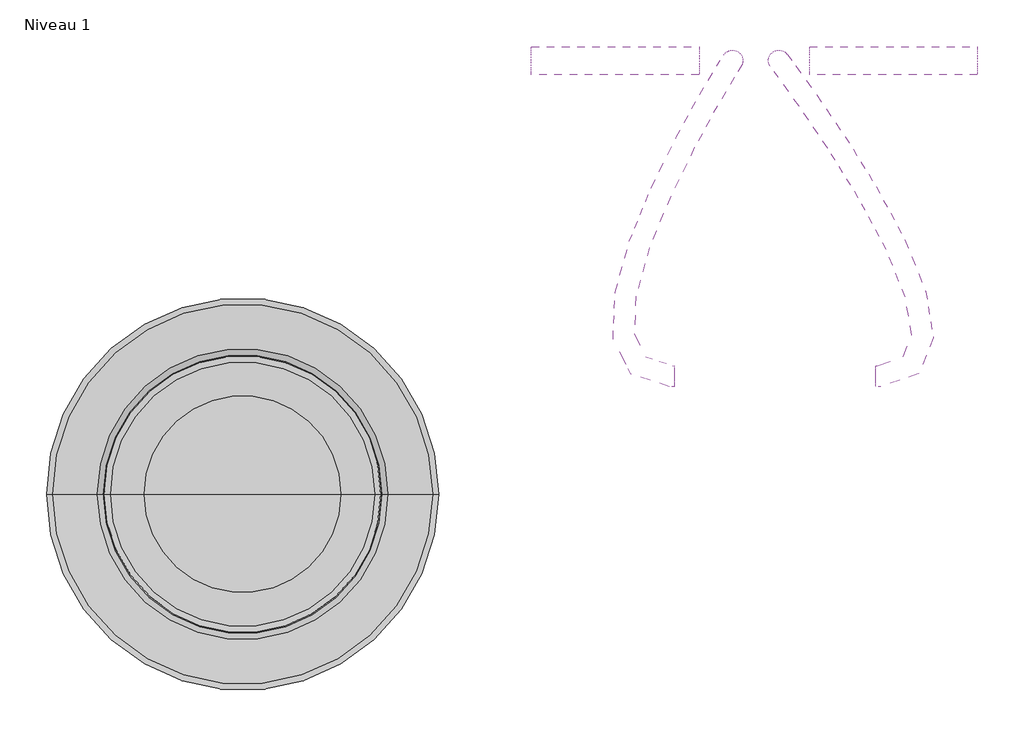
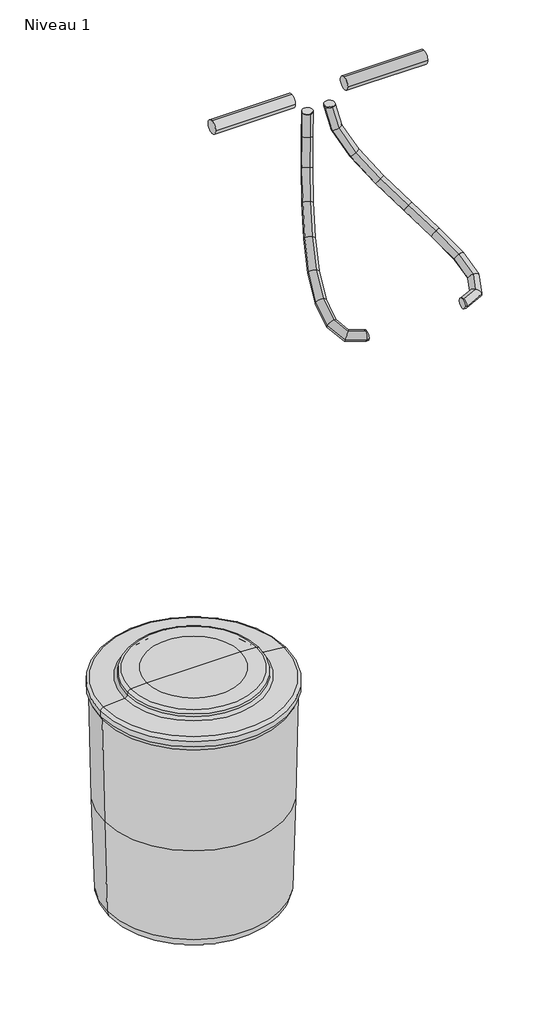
# One storey, incomplete: 4 pipe segments, 1 proxy.
"""IFC4 building model written with IfcOpenShell, lengths in millimetres."""

from ifc_helpers import new_model, si_unit, point, frame, frame_2d, origin, place, context, project, spatial, circle_curve, ellipse_curve, trimmed, segment, composite_curve, outline, extrude, transform, mapped, element, save
from ifc_brep_helpers import plane_surface, cylinder_surface, advanced_brep
from components import proxy_600x470_mm_3bed51a3

model = new_model("IFC4")

# Units and contexts
model_context = context("Model", 3, world=origin())
ifc_project = project(units=[si_unit("LENGTHUNIT", "METRE", prefix="MILLI")], contexts=[model_context])

# Site, building, storey
site = spatial("IfcSite", under=ifc_project)
building = spatial("IfcBuilding", under=site)
storey = spatial("IfcBuildingStorey", under=building, Name="Niveau 1", Elevation=0.0)

# Proxy
placement = place(None, origin())
proxy_600x470_mm_shape = proxy_600x470_mm_3bed51a3(model_context)
element("IfcBuildingElementProxy", 1, Name="BWT_Bac à sel type 1 : 600x470 mm", ObjectType="BWT_Bac à sel type 1 : 600x470 mm", at=placement, inside=storey, context=model_context, shape_type="MappedRepresentation", body=[
    mapped(proxy_600x470_mm_shape, transform((-2038.2618794, -1088.3928891, 0.0), x_axis=(1.0, 0.0, 0.0), y_axis=(0.0, 1.0, 0.0), z_axis=(0.0, 0.0, 1.0))),
])

# Pipe segments
element("IfcPipeSegment", 2, ObjectType="Souple - Circulaire", at=placement, inside=storey, context=model_context, shape_type="AdvancedBrep", body=[
    advanced_brep(
    [(-1410.8991799, -571.1251876, 1557.88203), (-1398.3991799, -583.6251876, 1557.88203), (-1385.8991799, -571.1251876, 1557.88203), (-1398.3991799, -558.6251876, 1557.88203), (-1410.8991799, -571.1251876, 1553.4096709), (-1398.3991799, -583.6251876, 1555.9627684), (-1385.8991799, -571.1251876, 1555.6002354), (-1398.3991799, -558.6251876, 1553.0471379), (-1282.5181347, -935.2835362, 1217.4101487), (-1282.5181347, -945.806693, 1203.2058124), (-1282.5181347, -960.0110293, 1213.7289693), (-1282.5181347, -949.4878725, 1227.9333056), (-1400.7839362, -584.588527, 1496.9173839), (-1389.2706701, -595.775189, 1504.9812587), (-1376.6119769, -583.4864089, 1503.732445), (-1388.125243, -572.2997469, 1495.6685703), (-1375.1225306, -620.1539461, 1439.5668995), (-1365.3624972, -628.9107156, 1451.549061), (-1352.3366356, -617.1308125, 1449.4796655), (-1362.096669, -608.3740429, 1437.497504), (-1340.7269979, -670.7879016, 1386.2979735), (-1332.0913584, -677.8894413, 1400.0215023), (-1318.667011, -666.6961526, 1397.3349652), (-1327.3026505, -659.5946128, 1383.6114364), (-1303.7642244, -730.2953708, 1337.9351191), (-1295.7234398, -736.439236, 1352.4369683), (-1281.8421064, -725.9816626, 1349.1525013), (-1289.882891, -719.8377974, 1334.6506522), (-1270.4016121, -792.4377596, 1295.6760349), (-1262.57739, -798.1782477, 1310.4521951), (-1248.1004095, -788.8301477, 1306.4132459), (-1255.9246316, -783.0896595, 1291.6370857), (-1246.8721966, -850.6513687, 1260.9944084), (-1238.9295701, -856.6847984, 1275.5960443), (-1223.6147747, -849.4095179, 1270.3221819), (-1231.5574011, -843.3760881, 1255.720546), (-1239.1779297, -897.3199337, 1235.9048151), (-1230.9218829, -905.2543735, 1249.4844447), (-1214.7891396, -902.9402484, 1241.5434043), (-1223.0451864, -895.0058086, 1227.9637747), (-1250.0556926, -924.815069, 1222.284188), (-1243.6224287, -937.3568588, 1233.5814139), (-1231.2925128, -944.6549358, 1220.8786505), (-1237.7257768, -932.113146, 1209.5814245), (-1280.9664581, -935.2835362, 1217.4101487), (-1279.4422783, -949.4878725, 1227.9333056), (-1276.6352168, -960.0110293, 1213.7289693), (-1278.1593966, -945.806693, 1203.2058124)],
    [
        (0, 1, circle_curve(frame((-1398.3991799, -571.1251876, 1557.88203), z_axis=(0.0, 0.0, 1.0), x_axis=(-1.0, 0.0, 0.0)), 12.5)),
        (1, 2, circle_curve(frame((-1398.3991799, -571.1251876, 1557.88203), z_axis=(0.0, 0.0, 1.0), x_axis=(-1.0, 0.0, 0.0)), 12.5)),
        (2, 3, circle_curve(frame((-1398.3991799, -571.1251876, 1557.88203), z_axis=(0.0, 0.0, 1.0), x_axis=(-1.0, 0.0, 0.0)), 12.5)),
        (3, 0, circle_curve(frame((-1398.3991799, -571.1251876, 1557.88203), z_axis=(0.0, 0.0, 1.0), x_axis=(-1.0, 0.0, 0.0)), 12.5)),
        (0, 4),
        (4, 5, ellipse_curve(frame((-1398.3991799, -571.1251876, 1554.5049531), z_axis=(-0.08670493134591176, 0.11540383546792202, 0.9895272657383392), x_axis=(0.5943832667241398, -0.7911211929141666, 0.14434607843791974)), 12.6322947, 12.5)),
        (5, 1),
        (5, 6, ellipse_curve(frame((-1398.3991799, -571.1251876, 1554.5049531), z_axis=(-0.08670493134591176, 0.11540383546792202, 0.9895272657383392), x_axis=(0.5943832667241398, -0.7911211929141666, 0.14434607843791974)), 12.6322947, 12.5)),
        (6, 2),
        (6, 7, ellipse_curve(frame((-1398.3991799, -571.1251876, 1554.5049531), z_axis=(-0.08670493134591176, 0.11540383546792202, 0.9895272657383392), x_axis=(0.5943832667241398, -0.7911211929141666, 0.14434607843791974)), 12.6322947, 12.5)),
        (7, 3),
        (7, 4, ellipse_curve(frame((-1398.3991799, -571.1251876, 1554.5049531), z_axis=(-0.08670493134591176, 0.11540383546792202, 0.9895272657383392), x_axis=(0.5943832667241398, -0.7911211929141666, 0.14434607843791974)), 12.6322947, 12.5)),
        (8, 9, circle_curve(frame((-1282.5181347, -947.6472828, 1215.569559), z_axis=(-1.0, 0.0, 0.0), x_axis=(0.0, 0.9890997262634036, 0.14724717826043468)), 12.5)),
        (9, 10, circle_curve(frame((-1282.5181347, -947.6472828, 1215.569559), z_axis=(-1.0, 0.0, 0.0), x_axis=(0.0, 0.9890997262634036, 0.14724717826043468)), 12.5)),
        (10, 11, circle_curve(frame((-1282.5181347, -947.6472828, 1215.569559), z_axis=(-1.0, 0.0, 0.0), x_axis=(0.0, 0.9890997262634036, 0.14724717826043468)), 12.5)),
        (11, 8, circle_curve(frame((-1282.5181347, -947.6472828, 1215.569559), z_axis=(-1.0, 0.0, 0.0), x_axis=(0.0, 0.9890997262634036, 0.14724717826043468)), 12.5)),
        (4, 12),
        (12, 13, ellipse_curve(frame((-1388.6979565, -584.0374679, 1500.3249145), z_axis=(-0.267920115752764, 0.3665300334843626, 0.8909963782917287), x_axis=(0.5089060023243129, -0.7314220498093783, 0.4539123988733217)), 12.7090312, 12.5)),
        (13, 5),
        (13, 14, ellipse_curve(frame((-1388.6979565, -584.0374679, 1500.3249145), z_axis=(-0.267920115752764, 0.3665300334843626, 0.8909963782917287), x_axis=(0.5089060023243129, -0.7314220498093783, 0.4539123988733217)), 12.7090312, 12.5)),
        (14, 6),
        (14, 15, ellipse_curve(frame((-1388.6979565, -584.0374679, 1500.3249145), z_axis=(-0.267920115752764, 0.3665300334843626, 0.8909963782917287), x_axis=(0.5089060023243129, -0.7314220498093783, 0.4539123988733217)), 12.7090312, 12.5)),
        (15, 7),
        (15, 12, ellipse_curve(frame((-1388.6979565, -584.0374679, 1500.3249145), z_axis=(-0.267920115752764, 0.3665300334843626, 0.8909963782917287), x_axis=(0.5089060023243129, -0.7314220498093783, 0.4539123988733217)), 12.7090312, 12.5)),
        (12, 16),
        (16, 17, ellipse_curve(frame((-1363.7295831, -618.6423793, 1444.5232825), z_axis=(-0.39166711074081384, 0.561185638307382, 0.7291553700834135), x_axis=(0.33820295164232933, -0.6491862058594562, 0.6813046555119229)), 12.5644945, 12.5)),
        (17, 13),
        (17, 18, ellipse_curve(frame((-1363.7295831, -618.6423793, 1444.5232825), z_axis=(-0.39166711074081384, 0.561185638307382, 0.7291553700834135), x_axis=(0.33820295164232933, -0.6491862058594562, 0.6813046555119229)), 12.5644945, 12.5)),
        (18, 14),
        (18, 19, ellipse_curve(frame((-1363.7295831, -618.6423793, 1444.5232825), z_axis=(-0.39166711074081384, 0.561185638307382, 0.7291553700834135), x_axis=(0.33820295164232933, -0.6491862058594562, 0.6813046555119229)), 12.5644945, 12.5)),
        (19, 15),
        (19, 16, ellipse_curve(frame((-1363.7295831, -618.6423793, 1444.5232825), z_axis=(-0.39166711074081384, 0.561185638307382, 0.7291553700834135), x_axis=(0.33820295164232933, -0.6491862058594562, 0.6813046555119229)), 12.5644945, 12.5)),
        (16, 20),
        (20, 21, ellipse_curve(frame((-1329.6970044, -668.7420271, 1391.8164693), z_axis=(-0.4297757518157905, 0.662649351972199, 0.6133421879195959), x_axis=(0.08880641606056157, -0.6449611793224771, 0.759037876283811)), 12.5212156, 12.5)),
        (21, 17),
        (21, 22, ellipse_curve(frame((-1329.6970044, -668.7420271, 1391.8164693), z_axis=(-0.4297757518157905, 0.662649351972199, 0.6133421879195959), x_axis=(0.08880641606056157, -0.6449611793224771, 0.759037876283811)), 12.5212156, 12.5)),
        (22, 18),
        (22, 23, ellipse_curve(frame((-1329.6970044, -668.7420271, 1391.8164693), z_axis=(-0.4297757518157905, 0.662649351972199, 0.6133421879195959), x_axis=(0.08880641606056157, -0.6449611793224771, 0.759037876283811)), 12.5212156, 12.5)),
        (23, 19),
        (23, 20, ellipse_curve(frame((-1329.6970044, -668.7420271, 1391.8164693), z_axis=(-0.4297757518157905, 0.662649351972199, 0.6133421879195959), x_axis=(0.08880641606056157, -0.6449611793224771, 0.759037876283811)), 12.5212156, 12.5)),
        (20, 24),
        (24, 25, ellipse_curve(frame((-1292.8031654, -728.1385167, 1343.5438102), z_axis=(-0.42035312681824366, 0.7280525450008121, 0.5415189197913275), x_axis=(-0.3410222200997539, -0.6798167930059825, 0.6492711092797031)), 12.5108934, 12.5)),
        (25, 21),
        (25, 26, ellipse_curve(frame((-1292.8031654, -728.1385167, 1343.5438102), z_axis=(-0.42035312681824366, 0.7280525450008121, 0.5415189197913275), x_axis=(-0.3410222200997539, -0.6798167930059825, 0.6492711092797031)), 12.5108934, 12.5)),
        (26, 22),
        (26, 27, ellipse_curve(frame((-1292.8031654, -728.1385167, 1343.5438102), z_axis=(-0.42035312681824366, 0.7280525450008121, 0.5415189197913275), x_axis=(-0.3410222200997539, -0.6798167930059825, 0.6492711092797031)), 12.5108934, 12.5)),
        (27, 23),
        (27, 24, ellipse_curve(frame((-1292.8031654, -728.1385167, 1343.5438102), z_axis=(-0.42035312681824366, 0.7280525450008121, 0.5415189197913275), x_axis=(-0.3410222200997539, -0.6798167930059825, 0.6492711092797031)), 12.5108934, 12.5)),
        (24, 28),
        (28, 29, ellipse_curve(frame((-1259.2510108, -790.6339536, 1301.0446404), z_axis=(-0.36735532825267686, 0.7846599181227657, 0.49935846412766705), x_axis=(-0.7741894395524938, -0.5555167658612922, 0.3033674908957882)), 12.5157824, 12.5)),
        (29, 25),
        (29, 30, ellipse_curve(frame((-1259.2510108, -790.6339536, 1301.0446404), z_axis=(-0.36735532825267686, 0.7846599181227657, 0.49935846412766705), x_axis=(-0.7741894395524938, -0.5555167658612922, 0.3033674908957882)), 12.5157824, 12.5)),
        (30, 26),
        (30, 31, ellipse_curve(frame((-1259.2510108, -790.6339536, 1301.0446404), z_axis=(-0.36735532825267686, 0.7846599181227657, 0.49935846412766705), x_axis=(-0.7741894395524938, -0.5555167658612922, 0.3033674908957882)), 12.5157824, 12.5)),
        (31, 27),
        (31, 28, ellipse_curve(frame((-1259.2510108, -790.6339536, 1301.0446404), z_axis=(-0.36735532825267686, 0.7846599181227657, 0.49935846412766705), x_axis=(-0.7741894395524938, -0.5555167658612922, 0.3033674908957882)), 12.5157824, 12.5)),
        (28, 32),
        (32, 33, ellipse_curve(frame((-1235.2434856, -850.0304433, 1265.6582952), z_axis=(-0.2369889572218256, 0.8456055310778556, 0.47831738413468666), x_axis=(-0.9479698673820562, -0.3090070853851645, 0.07660125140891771)), 12.5594914, 12.5)),
        (33, 29),
        (33, 34, ellipse_curve(frame((-1235.2434856, -850.0304433, 1265.6582952), z_axis=(-0.2369889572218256, 0.8456055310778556, 0.47831738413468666), x_axis=(-0.9479698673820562, -0.3090070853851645, 0.07660125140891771)), 12.5594914, 12.5)),
        (34, 30),
        (34, 35, ellipse_curve(frame((-1235.2434856, -850.0304433, 1265.6582952), z_axis=(-0.2369889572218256, 0.8456055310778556, 0.47831738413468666), x_axis=(-0.9479698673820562, -0.3090070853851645, 0.07660125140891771)), 12.5594914, 12.5)),
        (35, 31),
        (35, 32, ellipse_curve(frame((-1235.2434856, -850.0304433, 1265.6582952), z_axis=(-0.2369889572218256, 0.8456055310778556, 0.47831738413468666), x_axis=(-0.9479698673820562, -0.3090070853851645, 0.07660125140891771)), 12.5594914, 12.5)),
        (32, 36),
        (36, 37, ellipse_curve(frame((-1226.9835346, -900.1300911, 1238.7241097), z_axis=(0.09809549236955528, 0.8840818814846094, 0.4569206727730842), x_axis=(-0.9929489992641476, 0.05624384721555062, 0.1043499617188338)), 12.8783673, 12.5)),
        (37, 33),
        (37, 38, ellipse_curve(frame((-1226.9835346, -900.1300911, 1238.7241097), z_axis=(0.09809549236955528, 0.8840818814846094, 0.4569206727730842), x_axis=(-0.9929489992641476, 0.05624384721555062, 0.1043499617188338)), 12.8783673, 12.5)),
        (38, 34),
        (38, 39, ellipse_curve(frame((-1226.9835346, -900.1300911, 1238.7241097), z_axis=(0.09809549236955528, 0.8840818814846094, 0.4569206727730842), x_axis=(-0.9929489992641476, 0.05624384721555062, 0.1043499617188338)), 12.8783673, 12.5)),
        (39, 35),
        (39, 36, ellipse_curve(frame((-1226.9835346, -900.1300911, 1238.7241097), z_axis=(0.09809549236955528, 0.8840818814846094, 0.4569206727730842), x_axis=(-0.9929489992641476, 0.05624384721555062, 0.1043499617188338)), 12.8783673, 12.5)),
        (36, 40),
        (40, 41, ellipse_curve(frame((-1240.6741027, -934.7350024, 1221.5814192), z_axis=(0.7011505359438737, 0.6409743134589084, 0.31231371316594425), x_axis=(-0.7129371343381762, 0.6238418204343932, 0.3202218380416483)), 13.7923827, 12.5)),
        (41, 37),
        (41, 42, ellipse_curve(frame((-1240.6741027, -934.7350024, 1221.5814192), z_axis=(0.7011505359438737, 0.6409743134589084, 0.31231371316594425), x_axis=(-0.7129371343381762, 0.6238418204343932, 0.3202218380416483)), 13.7923827, 12.5)),
        (42, 38),
        (42, 43, ellipse_curve(frame((-1240.6741027, -934.7350024, 1221.5814192), z_axis=(0.7011505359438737, 0.6409743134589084, 0.31231371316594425), x_axis=(-0.7129371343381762, 0.6238418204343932, 0.3202218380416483)), 13.7923827, 12.5)),
        (43, 39),
        (43, 40, ellipse_curve(frame((-1240.6741027, -934.7350024, 1221.5814192), z_axis=(0.7011505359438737, 0.6409743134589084, 0.31231371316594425), x_axis=(-0.7129371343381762, 0.6238418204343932, 0.3202218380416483)), 13.7923827, 12.5)),
        (40, 44),
        (44, 45, ellipse_curve(frame((-1278.8008375, -947.6472828, 1215.569559), z_axis=(0.9840648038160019, 0.16119488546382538, 0.07505112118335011), x_axis=(-0.17781018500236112, 0.892109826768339, 0.4153595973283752)), 12.7024155, 12.5)),
        (45, 41),
        (45, 46, ellipse_curve(frame((-1278.8008375, -947.6472828, 1215.569559), z_axis=(0.9840648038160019, 0.16119488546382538, 0.07505112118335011), x_axis=(-0.17781018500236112, 0.892109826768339, 0.4153595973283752)), 12.7024155, 12.5)),
        (46, 42),
        (46, 47, ellipse_curve(frame((-1278.8008375, -947.6472828, 1215.569559), z_axis=(0.9840648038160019, 0.16119488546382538, 0.07505112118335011), x_axis=(-0.17781018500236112, 0.892109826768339, 0.4153595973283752)), 12.7024155, 12.5)),
        (47, 43),
        (47, 44, ellipse_curve(frame((-1278.8008375, -947.6472828, 1215.569559), z_axis=(0.9840648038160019, 0.16119488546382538, 0.07505112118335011), x_axis=(-0.17781018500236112, 0.892109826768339, 0.4153595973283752)), 12.7024155, 12.5)),
        (44, 8),
        (11, 45),
        (10, 46),
        (9, 47),
    ],
    [
        plane_surface(frame((-1398.3991799, -583.6251876, 1557.88203), z_axis=(0.0, 0.0, 1.0), x_axis=(-1.0, 0.0, 0.0))),
        cylinder_surface(frame((-1398.3991799, -571.1251876, 1557.88203), z_axis=(0.0, 0.0, 1.0), x_axis=(-1.0, 0.0, 0.0)), 12.5),
        plane_surface(frame((-1282.5181347, -947.6472828, 1203.069559), z_axis=(-1.0, 0.0, 0.0), x_axis=(0.0, -1.0, 0.0))),
        cylinder_surface(frame((-1398.3991799, -571.1251876, 1554.5049531), z_axis=(-0.1715937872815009, 0.22839048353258, 0.958328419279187), x_axis=(-0.9849645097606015, -0.02001216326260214, -0.1715937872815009)), 12.5),
        cylinder_surface(frame((-1388.6979565, -584.0374679, 1500.3249145), z_axis=(-0.3554332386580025, 0.4926126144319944, 0.7943551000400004), x_axis=(-0.9294153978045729, -0.0960065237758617, -0.3563281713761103)), 12.5),
        cylinder_surface(frame((-1363.7295831, -618.6423793, 1444.5232825), z_axis=(-0.4238800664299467, 0.6239974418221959, 0.6564700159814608), x_axis=(-0.8899938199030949, -0.15249026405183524, -0.42971818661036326)), 12.5),
        cylinder_surface(frame((-1329.6970044, -668.7420271, 1391.8164693), z_axis=(-0.4342150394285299, 0.6990557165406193, 0.5681359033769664), x_axis=(-0.874619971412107, -0.1761944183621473, -0.45165853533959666)), 12.5),
        cylinder_surface(frame((-1292.8031654, -728.1385167, 1343.5438102), z_axis=(-0.40575919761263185, 0.7557815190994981, 0.5139589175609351), x_axis=(-0.8790010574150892, -0.16860636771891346, -0.4460146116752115)), 12.5),
        cylinder_surface(frame((-1259.2510108, -790.6339536, 1301.0446404), z_axis=(-0.32802499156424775, 0.8115594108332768, 0.4834986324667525), x_axis=(-0.9025956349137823, -0.11820906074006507, -0.41394170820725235)), 12.5),
        cylinder_surface(frame((-1235.2434856, -850.0304433, 1265.6582952), z_axis=(-0.14370779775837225, 0.8716407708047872, 0.4686047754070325), x_axis=(-0.9424327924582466, 0.02393478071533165, -0.33353794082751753)), 12.5),
        cylinder_surface(frame((-1226.9835346, -900.1300911, 1238.7241097), z_axis=(0.334134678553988, 0.8445742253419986, 0.4183878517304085), x_axis=(-0.8985471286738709, 0.4194526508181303, -0.12912215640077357)), 12.5),
        cylinder_surface(frame((-1240.6741027, -934.7350024, 1221.5814192), z_axis=(0.936767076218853, 0.3172524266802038, 0.1477103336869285), x_axis=(-0.33554421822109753, 0.9341358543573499, 0.12165641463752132)), 12.5),
        cylinder_surface(frame((-1278.8008375, -947.6472828, 1215.569559), z_axis=(1.0000000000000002, 0.0, 0.0), x_axis=(0.0, 0.9890997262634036, 0.14724717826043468)), 12.5),
    ],
    [
        (0, [[1, 2, 3, 4]]),
        (1, [[-1, 5, 6, 7]]),
        (1, [[-2, -7, 8, 9]]),
        (1, [[-3, -9, 10, 11]]),
        (1, [[-4, -11, 12, -5]]),
        (2, [[13, 14, 15, 16]]),
        (3, [[-6, 17, 18, 19]]),
        (3, [[-8, -19, 20, 21]]),
        (3, [[-10, -21, 22, 23]]),
        (3, [[-12, -23, 24, -17]]),
        (4, [[-18, 25, 26, 27]]),
        (4, [[-20, -27, 28, 29]]),
        (4, [[-22, -29, 30, 31]]),
        (4, [[-24, -31, 32, -25]]),
        (5, [[-26, 33, 34, 35]]),
        (5, [[-28, -35, 36, 37]]),
        (5, [[-30, -37, 38, 39]]),
        (5, [[-32, -39, 40, -33]]),
        (6, [[-34, 41, 42, 43]]),
        (6, [[-36, -43, 44, 45]]),
        (6, [[-38, -45, 46, 47]]),
        (6, [[-40, -47, 48, -41]]),
        (7, [[-42, 49, 50, 51]]),
        (7, [[-44, -51, 52, 53]]),
        (7, [[-46, -53, 54, 55]]),
        (7, [[-48, -55, 56, -49]]),
        (8, [[-50, 57, 58, 59]]),
        (8, [[-52, -59, 60, 61]]),
        (8, [[-54, -61, 62, 63]]),
        (8, [[-56, -63, 64, -57]]),
        (9, [[-58, 65, 66, 67]]),
        (9, [[-60, -67, 68, 69]]),
        (9, [[-62, -69, 70, 71]]),
        (9, [[-64, -71, 72, -65]]),
        (10, [[-66, 73, 74, 75]]),
        (10, [[-68, -75, 76, 77]]),
        (10, [[-70, -77, 78, 79]]),
        (10, [[-72, -79, 80, -73]]),
        (11, [[-74, 81, 82, 83]]),
        (11, [[-76, -83, 84, 85]]),
        (11, [[-78, -85, 86, 87]]),
        (11, [[-80, -87, 88, -81]]),
        (12, [[-82, 89, -16, 90]]),
        (12, [[-84, -90, -15, 91]]),
        (12, [[-86, -91, -14, 92]]),
        (12, [[-88, -92, -13, -89]]),
    ],
),
])
element("IfcPipeSegment", 3, ObjectType="Souple - Circulaire", at=placement, inside=storey, context=model_context, shape_type="AdvancedBrep", body=[
    advanced_brep(
    [(-1466.3871841, -571.1251876, 1557.9427811), (-1453.8871841, -583.6251876, 1557.9427811), (-1441.3871841, -571.1251876, 1557.9427811), (-1453.8871841, -558.6251876, 1557.9427811), (-1466.3871841, -571.1251876, 1555.6301516), (-1453.8871841, -583.6251876, 1556.1896708), (-1441.3871841, -571.1251876, 1553.7963565), (-1453.8871841, -558.6251876, 1553.2368373), (-1523.3571367, -959.8587246, 1212.8992241), (-1523.3571367, -944.9769478, 1203.3581172), (-1523.3571367, -935.4358409, 1218.239894), (-1523.3571367, -950.3176177, 1227.7810008), (-1474.1156378, -583.5697826, 1503.9678013), (-1461.41626, -595.7487384, 1505.8600998), (-1449.69653, -584.5051533, 1498.250919), (-1462.3959078, -572.3261975, 1496.3586205), (-1494.1090472, -617.3589786, 1449.8525678), (-1480.9727462, -628.7995268, 1452.9274662), (-1470.6552735, -619.9257799, 1441.5228607), (-1483.7915745, -608.4852318, 1438.4479623), (-1521.4376154, -667.0337416, 1397.6971764), (-1507.870948, -677.6920187, 1401.5934105), (-1498.4513424, -670.4503126, 1388.4752644), (-1512.0180098, -659.7920355, 1384.5790303), (-1550.7100066, -726.4196114, 1349.3328605), (-1536.6999036, -736.1782759, 1353.9617461), (-1527.7342031, -729.8574221, 1340.0936507), (-1541.7443061, -720.0987575, 1335.4647651), (-1576.5253185, -789.3865642, 1306.2743663), (-1561.9980669, -797.8838351, 1311.7658268), (-1553.162889, -791.8813431, 1297.680027), (-1567.6901406, -783.3840722, 1292.1885665), (-1593.4934043, -850.116795, 1269.7821581), (-1578.3510945, -856.4127199, 1276.596386), (-1569.3856776, -849.9440915, 1262.7906831), (-1584.5279874, -843.6481666, 1255.9764552), (-1595.8432298, -903.6784849, 1240.662872), (-1580.4916627, -905.2046196, 1250.0702386), (-1571.431734, -896.5816972, 1237.4357367), (-1586.7833011, -895.0555625, 1228.0283701), (-1575.0136816, -944.7020804, 1220.0649798), (-1563.8538083, -937.9727142, 1233.6174223), (-1557.1203024, -924.7679244, 1223.2834698), (-1568.2801757, -931.4972906, 1209.7310274), (-1529.1624884, -959.8587246, 1212.8992241), (-1526.5085657, -950.3176177, 1227.7810008), (-1524.8482047, -935.4358409, 1218.239894), (-1527.5021274, -944.9769478, 1203.3581172)],
    [
        (0, 1, circle_curve(frame((-1453.8871841, -571.1251876, 1557.9427811), z_axis=(0.0, 0.0, 1.0), x_axis=(-1.0, 0.0, 0.0)), 12.5)),
        (1, 2, circle_curve(frame((-1453.8871841, -571.1251876, 1557.9427811), z_axis=(0.0, 0.0, 1.0), x_axis=(-1.0, 0.0, 0.0)), 12.5)),
        (2, 3, circle_curve(frame((-1453.8871841, -571.1251876, 1557.9427811), z_axis=(0.0, 0.0, 1.0), x_axis=(-1.0, 0.0, 0.0)), 12.5)),
        (3, 0, circle_curve(frame((-1453.8871841, -571.1251876, 1557.9427811), z_axis=(0.0, 0.0, 1.0), x_axis=(-1.0, 0.0, 0.0)), 12.5)),
        (0, 4),
        (4, 5, ellipse_curve(frame((-1453.8871841, -571.1251876, 1554.713254), z_axis=(0.07265292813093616, 0.1169879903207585, 0.9904722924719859), x_axis=(-0.5225443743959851, -0.8414171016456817, 0.13771215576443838)), 12.620242, 12.5)),
        (5, 1),
        (5, 6, ellipse_curve(frame((-1453.8871841, -571.1251876, 1554.713254), z_axis=(0.07265292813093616, 0.1169879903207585, 0.9904722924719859), x_axis=(-0.5225443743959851, -0.8414171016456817, 0.13771215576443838)), 12.620242, 12.5)),
        (6, 2),
        (6, 7, ellipse_curve(frame((-1453.8871841, -571.1251876, 1554.713254), z_axis=(0.07265292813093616, 0.1169879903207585, 0.9904722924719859), x_axis=(-0.5225443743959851, -0.8414171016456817, 0.13771215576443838)), 12.620242, 12.5)),
        (7, 3),
        (7, 4, ellipse_curve(frame((-1453.8871841, -571.1251876, 1554.713254), z_axis=(0.07265292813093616, 0.1169879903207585, 0.9904722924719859), x_axis=(-0.5225443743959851, -0.8414171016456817, 0.13771215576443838)), 12.620242, 12.5)),
        (8, 9, circle_curve(frame((-1523.3571367, -947.6472828, 1215.569559), z_axis=(1.0, 0.0, 0.0), x_axis=(0.0, -0.976915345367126, -0.21362679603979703)), 12.5)),
        (9, 10, circle_curve(frame((-1523.3571367, -947.6472828, 1215.569559), z_axis=(1.0, 0.0, 0.0), x_axis=(0.0, -0.976915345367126, -0.21362679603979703)), 12.5)),
        (10, 11, circle_curve(frame((-1523.3571367, -947.6472828, 1215.569559), z_axis=(1.0, 0.0, 0.0), x_axis=(0.0, -0.976915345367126, -0.21362679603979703)), 12.5)),
        (11, 8, circle_curve(frame((-1523.3571367, -947.6472828, 1215.569559), z_axis=(1.0, 0.0, 0.0), x_axis=(0.0, -0.976915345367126, -0.21362679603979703)), 12.5)),
        (4, 12),
        (12, 13, ellipse_curve(frame((-1461.9060839, -584.0374679, 1501.1093601), z_axis=(0.22494777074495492, 0.3743342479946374, 0.8995956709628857), x_axis=(-0.4436658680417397, -0.7826445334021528, 0.43660981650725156)), 12.6955083, 12.5)),
        (13, 5),
        (13, 14, ellipse_curve(frame((-1461.9060839, -584.0374679, 1501.1093601), z_axis=(0.22494777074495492, 0.3743342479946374, 0.8995956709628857), x_axis=(-0.4436658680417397, -0.7826445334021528, 0.43660981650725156)), 12.6955083, 12.5)),
        (14, 6),
        (14, 15, ellipse_curve(frame((-1461.9060839, -584.0374679, 1501.1093601), z_axis=(0.22494777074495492, 0.3743342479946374, 0.8995956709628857), x_axis=(-0.4436658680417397, -0.7826445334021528, 0.43660981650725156)), 12.6955083, 12.5)),
        (15, 7),
        (15, 12, ellipse_curve(frame((-1461.9060839, -584.0374679, 1501.1093601), z_axis=(0.22494777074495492, 0.3743342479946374, 0.8995956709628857), x_axis=(-0.4436658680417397, -0.7826445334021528, 0.43660981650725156)), 12.6955083, 12.5)),
        (12, 16),
        (16, 17, ellipse_curve(frame((-1482.3821604, -618.6423793, 1445.6877142), z_axis=(0.32854691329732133, 0.5780093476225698, 0.7469686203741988), x_axis=(-0.2782674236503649, -0.6965296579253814, 0.6613725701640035)), 12.5630848, 12.5)),
        (17, 13),
        (17, 18, ellipse_curve(frame((-1482.3821604, -618.6423793, 1445.6877142), z_axis=(0.32854691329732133, 0.5780093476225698, 0.7469686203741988), x_axis=(-0.2782674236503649, -0.6965296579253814, 0.6613725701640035)), 12.5630848, 12.5)),
        (18, 14),
        (18, 19, ellipse_curve(frame((-1482.3821604, -618.6423793, 1445.6877142), z_axis=(0.32854691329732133, 0.5780093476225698, 0.7469686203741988), x_axis=(-0.2782674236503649, -0.6965296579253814, 0.6613725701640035)), 12.5630848, 12.5)),
        (19, 15),
        (19, 16, ellipse_curve(frame((-1482.3821604, -618.6423793, 1445.6877142), z_axis=(0.32854691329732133, 0.5780093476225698, 0.7469686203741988), x_axis=(-0.2782674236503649, -0.6965296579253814, 0.6613725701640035)), 12.5630848, 12.5)),
        (16, 20),
        (20, 21, ellipse_curve(frame((-1509.9444789, -668.7420271, 1393.0862204), z_axis=(0.35650287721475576, 0.6857496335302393, 0.6345495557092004), x_axis=(-0.019221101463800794, -0.6736483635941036, 0.7388020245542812)), 12.5218012, 12.5)),
        (21, 17),
        (21, 22, ellipse_curve(frame((-1509.9444789, -668.7420271, 1393.0862204), z_axis=(0.35650287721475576, 0.6857496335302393, 0.6345495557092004), x_axis=(-0.019221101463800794, -0.6736483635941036, 0.7388020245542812)), 12.5218012, 12.5)),
        (22, 18),
        (22, 23, ellipse_curve(frame((-1509.9444789, -668.7420271, 1393.0862204), z_axis=(0.35650287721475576, 0.6857496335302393, 0.6345495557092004), x_axis=(-0.019221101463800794, -0.6736483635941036, 0.7388020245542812)), 12.5218012, 12.5)),
        (23, 19),
        (23, 20, ellipse_curve(frame((-1509.9444789, -668.7420271, 1393.0862204), z_axis=(0.35650287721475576, 0.6857496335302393, 0.6345495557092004), x_axis=(-0.019221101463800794, -0.6736483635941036, 0.7388020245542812)), 12.5218012, 12.5)),
        (20, 24),
        (24, 25, ellipse_curve(frame((-1539.2221049, -728.1385167, 1344.7132556), z_axis=(0.33911529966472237, 0.7538169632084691, 0.5628150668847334), x_axis=(0.4156255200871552, -0.6567632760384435, 0.6292196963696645)), 12.5120372, 12.5)),
        (25, 21),
        (25, 26, ellipse_curve(frame((-1539.2221049, -728.1385167, 1344.7132556), z_axis=(0.33911529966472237, 0.7538169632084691, 0.5628150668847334), x_axis=(0.4156255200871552, -0.6567632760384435, 0.6292196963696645)), 12.5120372, 12.5)),
        (26, 22),
        (26, 27, ellipse_curve(frame((-1539.2221049, -728.1385167, 1344.7132556), z_axis=(0.33911529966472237, 0.7538169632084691, 0.5628150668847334), x_axis=(0.4156255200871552, -0.6567632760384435, 0.6292196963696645)), 12.5120372, 12.5)),
        (27, 23),
        (27, 24, ellipse_curve(frame((-1539.2221049, -728.1385167, 1344.7132556), z_axis=(0.33911529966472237, 0.7538169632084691, 0.5628150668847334), x_axis=(0.4156255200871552, -0.6567632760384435, 0.6292196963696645)), 12.5120372, 12.5)),
        (24, 28),
        (28, 29, ellipse_curve(frame((-1564.8441038, -790.6339536, 1301.9771967), z_axis=(0.2771317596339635, 0.8089021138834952, 0.518531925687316), x_axis=(0.817507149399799, -0.4820707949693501, 0.31510285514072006)), 12.5180035, 12.5)),
        (29, 25),
        (29, 30, ellipse_curve(frame((-1564.8441038, -790.6339536, 1301.9771967), z_axis=(0.2771317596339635, 0.8089021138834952, 0.518531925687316), x_axis=(0.817507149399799, -0.4820707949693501, 0.31510285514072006)), 12.5180035, 12.5)),
        (30, 26),
        (30, 31, ellipse_curve(frame((-1564.8441038, -790.6339536, 1301.9771967), z_axis=(0.2771317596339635, 0.8089021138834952, 0.518531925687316), x_axis=(0.817507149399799, -0.4820707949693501, 0.31510285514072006)), 12.5180035, 12.5)),
        (31, 27),
        (31, 28, ellipse_curve(frame((-1564.8441038, -790.6339536, 1301.9771967), z_axis=(0.2771317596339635, 0.8089021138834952, 0.518531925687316), x_axis=(0.817507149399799, -0.4820707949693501, 0.31510285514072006)), 12.5180035, 12.5)),
        (28, 32),
        (32, 33, ellipse_curve(frame((-1581.439541, -850.0304433, 1266.2864206), z_axis=(0.13639857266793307, 0.8600896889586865, 0.49157009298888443), x_axis=(0.9682123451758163, -0.22075902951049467, 0.11760231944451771)), 12.563463, 12.5)),
        (33, 29),
        (33, 34, ellipse_curve(frame((-1581.439541, -850.0304433, 1266.2864206), z_axis=(0.13639857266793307, 0.8600896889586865, 0.49157009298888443), x_axis=(0.9682123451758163, -0.22075902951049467, 0.11760231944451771)), 12.563463, 12.5)),
        (34, 30),
        (34, 35, ellipse_curve(frame((-1581.439541, -850.0304433, 1266.2864206), z_axis=(0.13639857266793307, 0.8600896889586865, 0.49157009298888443), x_axis=(0.9682123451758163, -0.22075902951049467, 0.11760231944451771)), 12.563463, 12.5)),
        (35, 31),
        (35, 32, ellipse_curve(frame((-1581.439541, -850.0304433, 1266.2864206), z_axis=(0.13639857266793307, 0.8600896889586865, 0.49157009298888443), x_axis=(0.9682123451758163, -0.22075902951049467, 0.11760231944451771)), 12.563463, 12.5)),
        (32, 36),
        (36, 37, ellipse_curve(frame((-1583.6374819, -900.1300911, 1239.0493043), z_axis=(-0.1925410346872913, 0.8693079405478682, 0.4552270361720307), x_axis=(0.9790574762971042, 0.13891355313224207, 0.14882702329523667)), 12.8465168, 12.5)),
        (37, 33),
        (37, 38, ellipse_curve(frame((-1583.6374819, -900.1300911, 1239.0493043), z_axis=(-0.1925410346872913, 0.8693079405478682, 0.4552270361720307), x_axis=(0.9790574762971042, 0.13891355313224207, 0.14882702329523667)), 12.8465168, 12.5)),
        (38, 34),
        (38, 39, ellipse_curve(frame((-1583.6374819, -900.1300911, 1239.0493043), z_axis=(-0.1925410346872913, 0.8693079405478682, 0.4552270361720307), x_axis=(0.9790574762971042, 0.13891355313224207, 0.14882702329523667)), 12.8465168, 12.5)),
        (39, 35),
        (39, 36, ellipse_curve(frame((-1583.6374819, -900.1300911, 1239.0493043), z_axis=(-0.1925410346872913, 0.8693079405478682, 0.4552270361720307), x_axis=(0.9790574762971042, 0.13891355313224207, 0.14882702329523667)), 12.8465168, 12.5)),
        (36, 40),
        (40, 41, ellipse_curve(frame((-1566.066992, -934.7350024, 1221.6742248), z_axis=(-0.733286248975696, 0.609594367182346, 0.3011411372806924), x_axis=(0.6798407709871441, 0.6506006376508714, 0.33843069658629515)), 13.5553124, 12.5)),
        (41, 37),
        (41, 42, ellipse_curve(frame((-1566.066992, -934.7350024, 1221.6742248), z_axis=(-0.733286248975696, 0.609594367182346, 0.3011411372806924), x_axis=(0.6798407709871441, 0.6506006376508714, 0.33843069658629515)), 13.5553124, 12.5)),
        (42, 38),
        (42, 43, ellipse_curve(frame((-1566.066992, -934.7350024, 1221.6742248), z_axis=(-0.733286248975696, 0.609594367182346, 0.3011411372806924), x_axis=(0.6798407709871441, 0.6506006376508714, 0.33843069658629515)), 13.5553124, 12.5)),
        (43, 39),
        (43, 40, ellipse_curve(frame((-1566.066992, -934.7350024, 1221.6742248), z_axis=(-0.733286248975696, 0.609594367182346, 0.3011411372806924), x_axis=(0.6798407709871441, 0.6506006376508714, 0.33843069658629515)), 13.5553124, 12.5)),
        (40, 44),
        (44, 45, ellipse_curve(frame((-1527.0053465, -947.6472828, 1215.569559), z_axis=(-0.9846792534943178, 0.15764472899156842, 0.07453124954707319), x_axis=(0.17437536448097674, 0.8902031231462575, 0.4208700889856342)), 12.694489, 12.5)),
        (45, 41),
        (45, 46, ellipse_curve(frame((-1527.0053465, -947.6472828, 1215.569559), z_axis=(-0.9846792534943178, 0.15764472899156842, 0.07453124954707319), x_axis=(0.17437536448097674, 0.8902031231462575, 0.4208700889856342)), 12.694489, 12.5)),
        (46, 42),
        (46, 47, ellipse_curve(frame((-1527.0053465, -947.6472828, 1215.569559), z_axis=(-0.9846792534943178, 0.15764472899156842, 0.07453124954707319), x_axis=(0.17437536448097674, 0.8902031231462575, 0.4208700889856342)), 12.694489, 12.5)),
        (47, 43),
        (47, 44, ellipse_curve(frame((-1527.0053465, -947.6472828, 1215.569559), z_axis=(-0.9846792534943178, 0.15764472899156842, 0.07453124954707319), x_axis=(0.17437536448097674, 0.8902031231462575, 0.4208700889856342)), 12.694489, 12.5)),
        (44, 8),
        (11, 45),
        (10, 46),
        (9, 47),
    ],
    [
        plane_surface(frame((-1453.8871841, -583.6251876, 1557.9427811), z_axis=(0.0, 0.0, 1.0), x_axis=(-1.0, 0.0, 0.0))),
        cylinder_surface(frame((-1453.8871841, -571.1251876, 1557.9427811), z_axis=(0.0, 0.0, 1.0), x_axis=(-1.0, 0.0, 0.0)), 12.5),
        plane_surface(frame((-1523.3571367, -947.6472828, 1203.069559), z_axis=(1.0, 0.0, 0.0), x_axis=(0.0, 1.0, 0.0))),
        cylinder_surface(frame((-1453.8871841, -571.1251876, 1554.713254), z_axis=(0.14392142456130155, 0.23174672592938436, 0.9620707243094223), x_axis=(-0.9894431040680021, 0.016999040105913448, 0.14392142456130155)), 12.5),
        cylinder_surface(frame((-1461.9060839, -584.0374679, 1501.1093601), z_axis=(0.2990458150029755, 0.5053924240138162, 0.8094134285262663), x_axis=(-0.9504197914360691, 0.0819375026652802, 0.2999807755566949)), 12.5),
        cylinder_surface(frame((-1482.3821604, -618.6423793, 1445.6877142), z_axis=(0.35474845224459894, 0.6448213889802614, 0.67702209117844), x_axis=(-0.923596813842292, 0.12912690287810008, 0.3609642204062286)), 12.5),
        cylinder_surface(frame((-1509.9444789, -668.7420271, 1393.0862204), z_axis=(0.3570159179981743, 0.724290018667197, 0.5898674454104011), x_axis=(-0.9152785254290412, 0.14512751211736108, 0.3757701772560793)), 12.5),
        cylinder_surface(frame((-1539.2221049, -728.1385167, 1344.7132556), z_axis=(0.32056218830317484, 0.7818934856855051, 0.534679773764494), x_axis=(-0.9224024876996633, 0.1292917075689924, 0.3639468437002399)), 12.5),
        cylinder_surface(frame((-1564.8441038, -790.6339536, 1301.9771967), z_axis=(0.23290418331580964, 0.8335839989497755, 0.5008925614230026), x_axis=(-0.9432845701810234, 0.06834033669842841, 0.3248750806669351)), 12.5),
        cylinder_surface(frame((-1581.439541, -850.0304433, 1266.2864206), z_axis=(0.03851495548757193, 0.8779060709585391, 0.47728139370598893), x_axis=(-0.9677858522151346, -0.08615761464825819, 0.23657432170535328)), 12.5),
        cylinder_surface(frame((-1583.6374819, -900.1300911, 1239.0493043), z_axis=(-0.4132099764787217, 0.8138130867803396, 0.40861445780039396), x_axis=(-0.8834005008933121, -0.46715097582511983, 0.037061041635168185)), 12.5),
        cylinder_surface(frame((-1566.066992, -934.7350024, 1221.6742248), z_axis=(-0.9391864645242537, 0.3104589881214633, 0.14677875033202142), x_axis=(-0.3346480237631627, -0.9233390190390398, -0.1882969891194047)), 12.5),
        cylinder_surface(frame((-1527.0053465, -947.6472828, 1215.569559), z_axis=(-1.0000000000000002, 0.0, 0.0), x_axis=(0.0, -0.976915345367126, -0.21362679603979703)), 12.5),
    ],
    [
        (0, [[1, 2, 3, 4]]),
        (1, [[-1, 5, 6, 7]]),
        (1, [[-2, -7, 8, 9]]),
        (1, [[-3, -9, 10, 11]]),
        (1, [[-4, -11, 12, -5]]),
        (2, [[13, 14, 15, 16]]),
        (3, [[-6, 17, 18, 19]]),
        (3, [[-8, -19, 20, 21]]),
        (3, [[-10, -21, 22, 23]]),
        (3, [[-12, -23, 24, -17]]),
        (4, [[-18, 25, 26, 27]]),
        (4, [[-20, -27, 28, 29]]),
        (4, [[-22, -29, 30, 31]]),
        (4, [[-24, -31, 32, -25]]),
        (5, [[-26, 33, 34, 35]]),
        (5, [[-28, -35, 36, 37]]),
        (5, [[-30, -37, 38, 39]]),
        (5, [[-32, -39, 40, -33]]),
        (6, [[-34, 41, 42, 43]]),
        (6, [[-36, -43, 44, 45]]),
        (6, [[-38, -45, 46, 47]]),
        (6, [[-40, -47, 48, -41]]),
        (7, [[-42, 49, 50, 51]]),
        (7, [[-44, -51, 52, 53]]),
        (7, [[-46, -53, 54, 55]]),
        (7, [[-48, -55, 56, -49]]),
        (8, [[-50, 57, 58, 59]]),
        (8, [[-52, -59, 60, 61]]),
        (8, [[-54, -61, 62, 63]]),
        (8, [[-56, -63, 64, -57]]),
        (9, [[-58, 65, 66, 67]]),
        (9, [[-60, -67, 68, 69]]),
        (9, [[-62, -69, 70, 71]]),
        (9, [[-64, -71, 72, -65]]),
        (10, [[-66, 73, 74, 75]]),
        (10, [[-68, -75, 76, 77]]),
        (10, [[-70, -77, 78, 79]]),
        (10, [[-72, -79, 80, -73]]),
        (11, [[-74, 81, 82, 83]]),
        (11, [[-76, -83, 84, 85]]),
        (11, [[-78, -85, 86, 87]]),
        (11, [[-80, -87, 88, -81]]),
        (12, [[-82, 89, -16, 90]]),
        (12, [[-84, -90, -15, 91]]),
        (12, [[-86, -91, -14, 92]]),
        (12, [[-88, -92, -13, -89]]),
    ],
),
])
element("IfcPipeSegment", 4, ObjectType="Standard", at=placement, inside=storey, context=model_context, shape_type="SweptSolid", body=[
    extrude(outline(composite_curve([segment(trimmed(circle_curve(frame_2d((-571.1251876, 1599.5)), 16.7005), [point((-554.4246876, 1599.5))], [point((-571.1251876, 1582.7995))], False, "CARTESIAN"), True, "CONTINUOUS"), segment(trimmed(circle_curve(frame_2d((-571.1251876, 1599.5)), 16.7005), [point((-571.1251876, 1582.7995))], [point((-587.8256876, 1599.5))], False, "CARTESIAN"), True, "CONTINUOUS"), segment(trimmed(circle_curve(frame_2d((-571.1251876, 1599.5)), 16.7005), [point((-587.8256876, 1599.5))], [point((-571.1251876, 1616.2005))], False, "CARTESIAN"), True, "CONTINUOUS"), segment(trimmed(circle_curve(frame_2d((-571.1251876, 1599.5)), 16.7005), [point((-571.1251876, 1616.2005))], [point((-554.4246876, 1599.5))], False, "CARTESIAN"), True, "CONTINUOUS")], self_intersect=False)), frame((-1693.6526427, 0.0, 0.0), z_axis=(1.0, 0.0, 0.0), x_axis=(0.0, 1.0, 0.0)), (0.0, 0.0, 1.0), 200.0),
])
element("IfcPipeSegment", 5, ObjectType="Standard", at=placement, inside=storey, context=model_context, shape_type="SweptSolid", body=[
    extrude(outline(composite_curve([segment(trimmed(circle_curve(frame_2d((-571.1251876, 1599.5)), 16.7005), [point((-587.8256876, 1599.5))], [point((-571.1251876, 1616.2005))], False, "CARTESIAN"), True, "CONTINUOUS"), segment(trimmed(circle_curve(frame_2d((-571.1251876, 1599.5)), 16.7005), [point((-571.1251876, 1616.2005))], [point((-554.4246876, 1599.5))], False, "CARTESIAN"), True, "CONTINUOUS"), segment(trimmed(circle_curve(frame_2d((-571.1251876, 1599.5)), 16.7005), [point((-554.4246876, 1599.5))], [point((-571.1251876, 1582.7995))], False, "CARTESIAN"), True, "CONTINUOUS"), segment(trimmed(circle_curve(frame_2d((-571.1251876, 1599.5)), 16.7005), [point((-571.1251876, 1582.7995))], [point((-587.8256876, 1599.5))], False, "CARTESIAN"), True, "CONTINUOUS")], self_intersect=False)), frame((-1361.4026427, 0.0, 0.0), z_axis=(1.0, 0.0, 0.0), x_axis=(0.0, 1.0, 0.0)), (0.0, 0.0, 1.0), 200.0),
])

save(model, "model.ifc")
